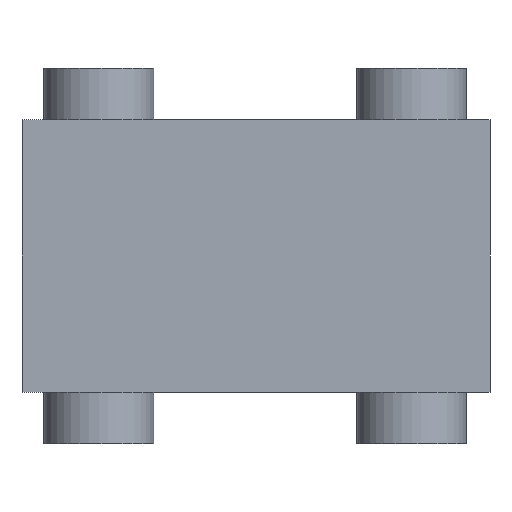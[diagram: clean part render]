
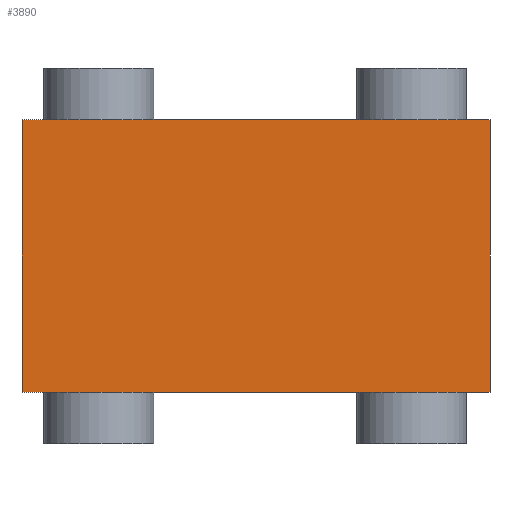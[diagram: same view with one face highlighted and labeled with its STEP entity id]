
A CAD part, front view. The second image highlights one B-rep face of the part: STEP entity #3890.
In plain terms, the highlighted planar face has unit normal (0, -1, 0).
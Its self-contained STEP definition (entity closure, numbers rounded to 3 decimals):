
#195 = CARTESIAN_POINT ( 'NONE',  ( 255.8, 0., 149. ) ) ;
#717 = CARTESIAN_POINT ( 'NONE',  ( 0., 0., 149. ) ) ;
#892 = DIRECTION ( 'NONE',  ( 0., 0., -1. ) ) ;
#1024 = VECTOR ( 'NONE', #1604, 1000. ) ;
#1526 = LINE ( 'NONE', #7389, #4490 ) ;
#1604 = DIRECTION ( 'NONE',  ( 1., 0., 0. ) ) ;
#2619 = VERTEX_POINT ( 'NONE', #7619 ) ;
#2736 = ORIENTED_EDGE ( 'NONE', *, *, #3117, .F. ) ;
#2983 = VECTOR ( 'NONE', #5137, 1000. ) ;
#3117 = EDGE_CURVE ( 'NONE', #2619, #7060, #1526, .T. ) ;
#3302 = FACE_OUTER_BOUND ( 'NONE', #9005, .T. ) ;
#3887 = VECTOR ( 'NONE', #892, 1000. ) ;
#3890 = ADVANCED_FACE ( 'NONE', ( #3302 ), #7459, .F. ) ;
#3965 = DIRECTION ( 'NONE',  ( 0., 1., 0. ) ) ;
#4024 = CARTESIAN_POINT ( 'NONE',  ( 0., 0., 149. ) ) ;
#4490 = VECTOR ( 'NONE', #4878, 1000. ) ;
#4679 = ORIENTED_EDGE ( 'NONE', *, *, #7044, .T. ) ;
#4878 = DIRECTION ( 'NONE',  ( 1., 0., 0. ) ) ;
#5137 = DIRECTION ( 'NONE',  ( 0., 0., -1. ) ) ;
#5708 = LINE ( 'NONE', #8288, #1024 ) ;
#5967 = EDGE_CURVE ( 'NONE', #7060, #6779, #8560, .T. ) ;
#6630 = CARTESIAN_POINT ( 'NONE',  ( 0., 0., 0. ) ) ;
#6779 = VERTEX_POINT ( 'NONE', #10067 ) ;
#7044 = EDGE_CURVE ( 'NONE', #2619, #9171, #8250, .T. ) ;
#7060 = VERTEX_POINT ( 'NONE', #9264 ) ;
#7341 = ORIENTED_EDGE ( 'NONE', *, *, #5967, .F. ) ;
#7389 = CARTESIAN_POINT ( 'NONE',  ( 0., 0., 149. ) ) ;
#7404 = DIRECTION ( 'NONE',  ( 0., 0., 1. ) ) ;
#7459 = PLANE ( 'NONE',  #7626 ) ;
#7619 = CARTESIAN_POINT ( 'NONE',  ( 0., 0., 149. ) ) ;
#7626 = AXIS2_PLACEMENT_3D ( 'NONE', #4024, #3965, #7404 ) ;
#8250 = LINE ( 'NONE', #717, #3887 ) ;
#8288 = CARTESIAN_POINT ( 'NONE',  ( 0., 0., 0. ) ) ;
#8560 = LINE ( 'NONE', #195, #2983 ) ;
#8956 = ORIENTED_EDGE ( 'NONE', *, *, #10812, .T. ) ;
#9005 = EDGE_LOOP ( 'NONE', ( #8956, #7341, #2736, #4679 ) ) ;
#9171 = VERTEX_POINT ( 'NONE', #6630 ) ;
#9264 = CARTESIAN_POINT ( 'NONE',  ( 255.8, 0., 149. ) ) ;
#10067 = CARTESIAN_POINT ( 'NONE',  ( 255.8, 0., 0. ) ) ;
#10812 = EDGE_CURVE ( 'NONE', #9171, #6779, #5708, .T. ) ;
